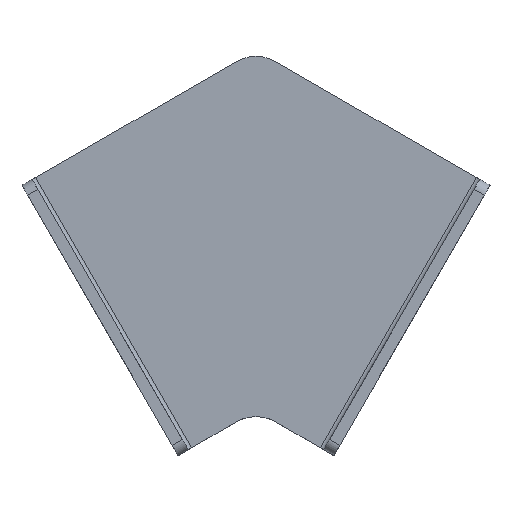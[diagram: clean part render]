
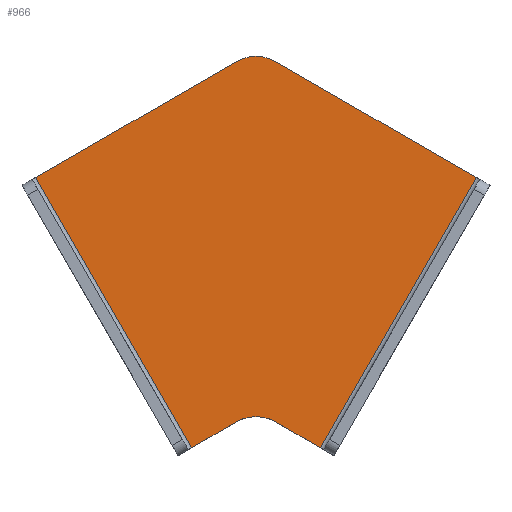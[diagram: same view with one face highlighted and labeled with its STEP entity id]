
A CAD part, top view. The second image highlights one B-rep face of the part: STEP entity #966.
In plain terms, the highlighted planar face has unit normal (0, 0, 1).
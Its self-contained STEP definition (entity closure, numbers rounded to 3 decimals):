
#25 = CARTESIAN_POINT ( 'NONE',  ( 20., 92.376, 3. ) ) ;
#54 = VERTEX_POINT ( 'NONE', #941 ) ;
#66 = VECTOR ( 'NONE', #441, 1000. ) ;
#86 = VECTOR ( 'NONE', #1338, 1000. ) ;
#99 = EDGE_CURVE ( 'NONE', #1182, #315, #872, .T. ) ;
#100 = AXIS2_PLACEMENT_3D ( 'NONE', #606, #952, #835 ) ;
#101 = CARTESIAN_POINT ( 'NONE',  ( 26.536, -15.321, 3. ) ) ;
#140 = DIRECTION ( 'NONE',  ( 1., 0., 0. ) ) ;
#142 = FACE_OUTER_BOUND ( 'NONE', #594, .T. ) ;
#155 = CARTESIAN_POINT ( 'NONE',  ( 0., 0., 3. ) ) ;
#160 = DIRECTION ( 'NONE',  ( -0.866, 0.5, 0. ) ) ;
#188 = CARTESIAN_POINT ( 'NONE',  ( 76.536, 71.282, 3. ) ) ;
#245 = VERTEX_POINT ( 'NONE', #590 ) ;
#271 = CARTESIAN_POINT ( 'NONE',  ( 10., 17.321, 3. ) ) ;
#315 = VERTEX_POINT ( 'NONE', #1319 ) ;
#338 = ORIENTED_EDGE ( 'NONE', *, *, #1425, .T. ) ;
#341 = CARTESIAN_POINT ( 'NONE',  ( 25., 101.036, 3. ) ) ;
#350 = VERTEX_POINT ( 'NONE', #1374 ) ;
#369 = LINE ( 'NONE', #101, #66 ) ;
#375 = CARTESIAN_POINT ( 'NONE',  ( 20., 0., 3. ) ) ;
#378 = ORIENTED_EDGE ( 'NONE', *, *, #383, .T. ) ;
#383 = EDGE_CURVE ( 'NONE', #350, #245, #1282, .T. ) ;
#393 = CARTESIAN_POINT ( 'NONE',  ( 50., 86.603, 3. ) ) ;
#411 = LINE ( 'NONE', #155, #1361 ) ;
#441 = DIRECTION ( 'NONE',  ( 0.5, 0.866, 0. ) ) ;
#442 = VECTOR ( 'NONE', #160, 1000. ) ;
#475 = CARTESIAN_POINT ( 'NONE',  ( 15., 8.66, 3. ) ) ;
#481 = DIRECTION ( 'NONE',  ( 1., 0., 0. ) ) ;
#520 = ORIENTED_EDGE ( 'NONE', *, *, #956, .F. ) ;
#590 = CARTESIAN_POINT ( 'NONE',  ( 3.464, 2., 3. ) ) ;
#594 = EDGE_LOOP ( 'NONE', ( #520, #338, #633, #940, #1235, #378, #903, #1194 ) ) ;
#606 = CARTESIAN_POINT ( 'NONE',  ( 0., 0., 3. ) ) ;
#633 = ORIENTED_EDGE ( 'NONE', *, *, #980, .T. ) ;
#683 = LINE ( 'NONE', #1013, #86 ) ;
#686 = VERTEX_POINT ( 'NONE', #341 ) ;
#702 = LINE ( 'NONE', #393, #1010 ) ;
#704 = AXIS2_PLACEMENT_3D ( 'NONE', #25, #815, #140 ) ;
#722 = PLANE ( 'NONE',  #100 ) ;
#815 = DIRECTION ( 'NONE',  ( 0., 0., 1. ) ) ;
#825 = VERTEX_POINT ( 'NONE', #1179 ) ;
#830 = AXIS2_PLACEMENT_3D ( 'NONE', #375, #1158, #481 ) ;
#835 = DIRECTION ( 'NONE',  ( 1., 0., 0. ) ) ;
#872 = CIRCLE ( 'NONE', #830, 10. ) ;
#903 = ORIENTED_EDGE ( 'NONE', *, *, #920, .T. ) ;
#920 = EDGE_CURVE ( 'NONE', #245, #1182, #411, .T. ) ;
#940 = ORIENTED_EDGE ( 'NONE', *, *, #1175, .T. ) ;
#941 = CARTESIAN_POINT ( 'NONE',  ( 36.536, 2., 3. ) ) ;
#950 = CIRCLE ( 'NONE', #704, 10. ) ;
#952 = DIRECTION ( 'NONE',  ( 0., 0., 1. ) ) ;
#955 = DIRECTION ( 'NONE',  ( -0.866, 0.5, 0. ) ) ;
#956 = EDGE_CURVE ( 'NONE', #54, #315, #1327, .T. ) ;
#966 = ADVANCED_FACE ( 'NONE', ( #142 ), #722, .T. ) ;
#980 = EDGE_CURVE ( 'NONE', #1290, #686, #702, .T. ) ;
#994 = VECTOR ( 'NONE', #1398, 1000. ) ;
#1010 = VECTOR ( 'NONE', #955, 1000. ) ;
#1013 = CARTESIAN_POINT ( 'NONE',  ( -40., 69.282, 3. ) ) ;
#1151 = EDGE_CURVE ( 'NONE', #350, #825, #683, .T. ) ;
#1158 = DIRECTION ( 'NONE',  ( 0., 0., -1. ) ) ;
#1175 = EDGE_CURVE ( 'NONE', #686, #825, #950, .T. ) ;
#1179 = CARTESIAN_POINT ( 'NONE',  ( 15., 101.036, 3. ) ) ;
#1182 = VERTEX_POINT ( 'NONE', #475 ) ;
#1194 = ORIENTED_EDGE ( 'NONE', *, *, #99, .T. ) ;
#1235 = ORIENTED_EDGE ( 'NONE', *, *, #1151, .F. ) ;
#1276 = DIRECTION ( 'NONE',  ( 0.866, 0.5, 0. ) ) ;
#1282 = LINE ( 'NONE', #1299, #994 ) ;
#1290 = VERTEX_POINT ( 'NONE', #188 ) ;
#1299 = CARTESIAN_POINT ( 'NONE',  ( 3.464, 2., 3. ) ) ;
#1319 = CARTESIAN_POINT ( 'NONE',  ( 25., 8.66, 3. ) ) ;
#1327 = LINE ( 'NONE', #271, #442 ) ;
#1338 = DIRECTION ( 'NONE',  ( 0.866, 0.5, 0. ) ) ;
#1361 = VECTOR ( 'NONE', #1276, 1000. ) ;
#1374 = CARTESIAN_POINT ( 'NONE',  ( -36.536, 71.282, 3. ) ) ;
#1398 = DIRECTION ( 'NONE',  ( 0.5, -0.866, 0. ) ) ;
#1425 = EDGE_CURVE ( 'NONE', #54, #1290, #369, .T. ) ;
